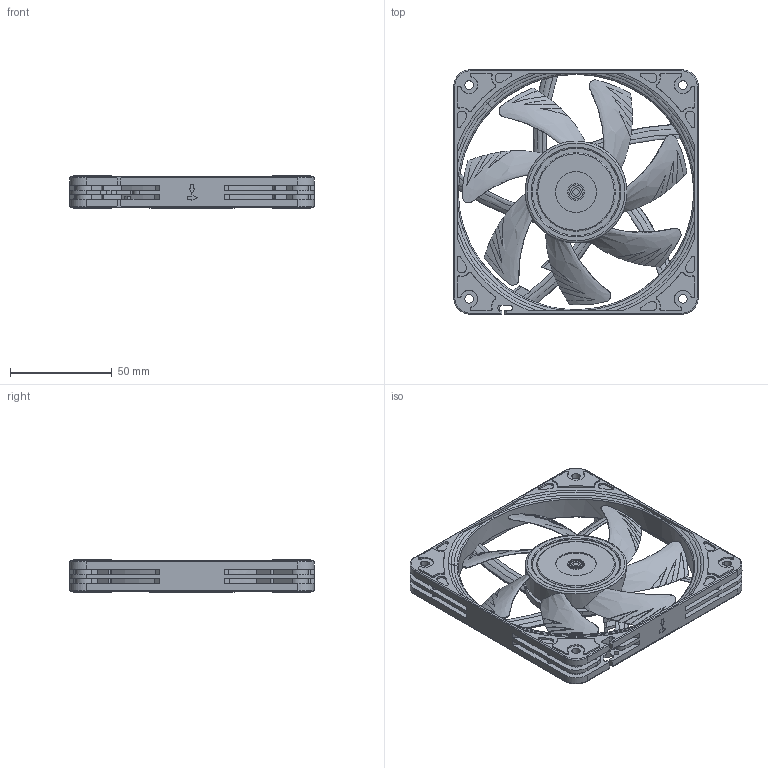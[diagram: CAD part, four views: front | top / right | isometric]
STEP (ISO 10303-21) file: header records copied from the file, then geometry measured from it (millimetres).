
FILE_DESCRIPTION(/* description */ ('140mm Desk Fan'),/* implementation_level */ '2;1');
FILE_NAME(/* name */ 'NF-A12x15_public-cad',/* time_stamp */ '2026-03-27T12:26:09+01:00',/* author */ ('Andreas'),/* organization */ ('Rascom'),/* preprocessor_version */ 'ST-DEVELOPER v18.102',/* originating_system */ 'Solid Edge',/* authorisation */ 'Unknown');
FILE_SCHEMA (('AUTOMOTIVE_DESIGN {1 0 10303 214 3 1 1}'));
Products named in the file (5): NF-A12x15_public-cad; NF-A12x15_Frame-Public; NF-A12x15_Impeller-Public; NA-AVP7; Fan-Label-D42mm
Assembly tree (11 placements, depth 2):
  NF-A12x15_public-cad
    NF-A12x15_Frame-Public
    NF-A12x15_Impeller-Public
    NA-AVP7  x8
    Fan-Label-D42mm
Bounding box: 120 x 120 x 16.2 mm (x, y, z)
Volume: 76803.3 mm3; surface area: 58619.3 mm2
Topology: 11 solids, 11 shells, 1280 faces, 3451 edges, 2239 vertices
Faces by surface type: cylinder 539, plane 485, bspline 147, torus 65, cone 44
Full cylindrical faces by diameter (mm): 3 x1, 3.01 x1, 5 x1, 6.9 x1, 8 x1, 20 x1, 38.6 x1, 42 x1, 50 x1, 115.648 x1
Entity records: 47218 total; most frequent: CARTESIAN_POINT 17980, ORIENTED_EDGE 6208, DIRECTION 4725, EDGE_CURVE 3104, VERTEX_POINT 2025, AXIS2_PLACEMENT_3D 1695, LINE 1335, VECTOR 1335
